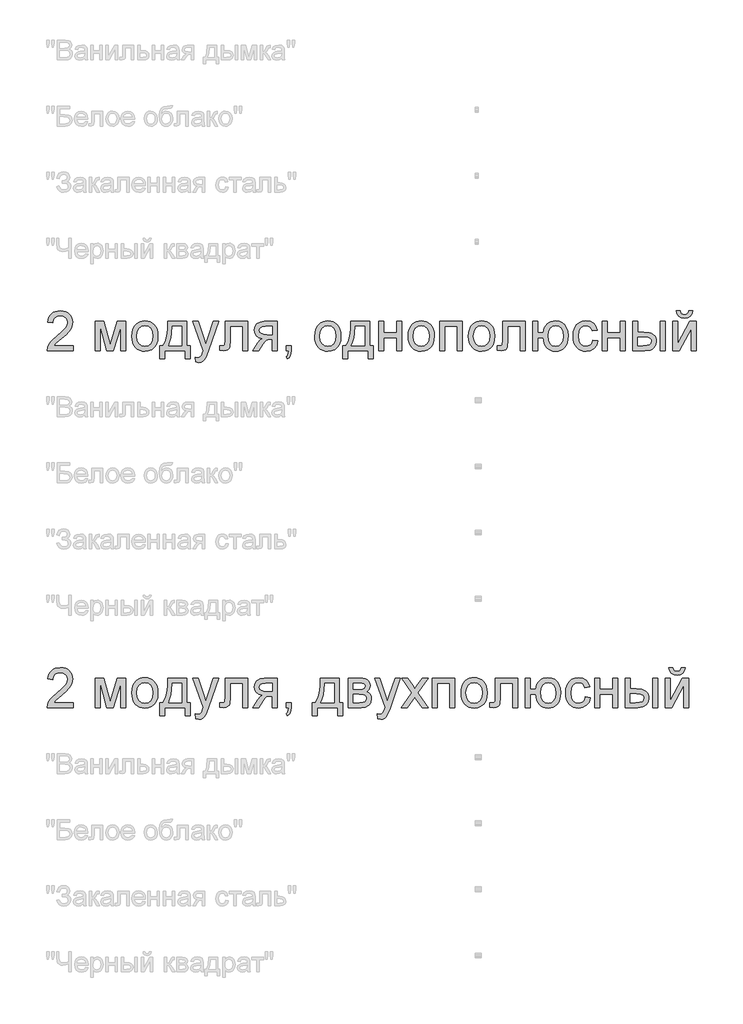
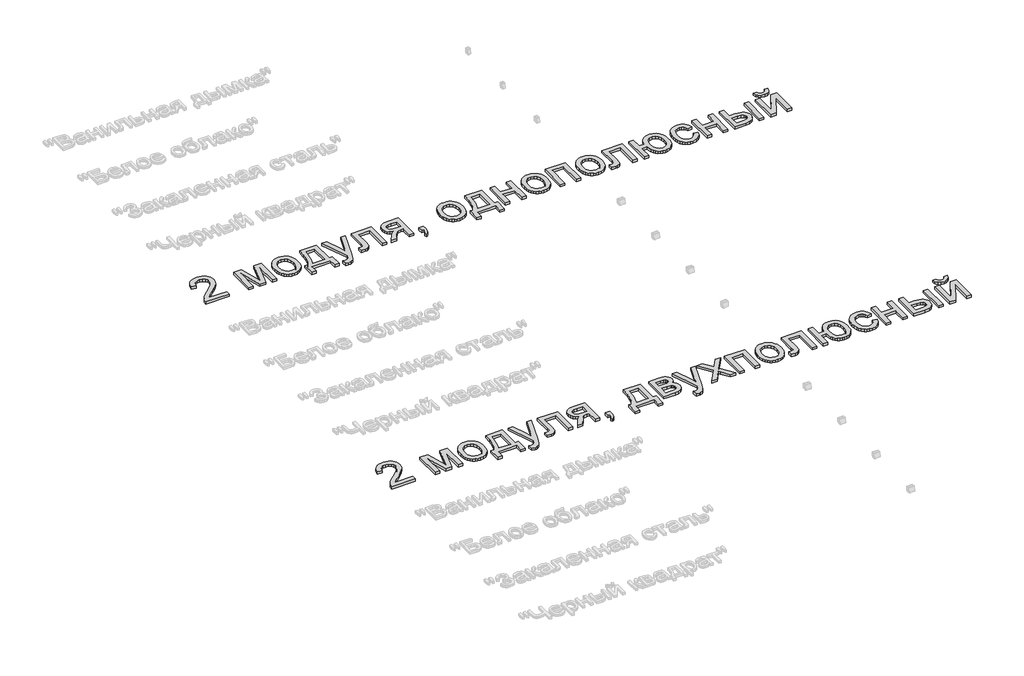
# One storey, part 19 of 168: 2 proxies.
"""IFC4 building model written with IfcOpenShell, lengths in millimetres."""

from ifc_helpers import new_model, si_unit, origin, origin_with_axes, place, context, project, spatial, polyline, outline, extrude, element, save

model = new_model("IFC4")

# Units and contexts
model_context = context("Model", 3, world=origin())
ifc_project = project(units=[si_unit("LENGTHUNIT", "METRE", prefix="MILLI")], contexts=[model_context])

# Site, building, storey
site = spatial("IfcSite", under=ifc_project)
building = spatial("IfcBuilding", under=site)
storey = spatial("IfcBuildingStorey", under=building, Name="Этаж 01", Elevation=0.0)

# Proxies
placement = place(None, origin())
element("IfcBuildingElementProxy", 1, Name="300 мм Arial 2", ObjectType="300 мм Arial 2", at=placement, inside=storey, context=model_context, shape_type="SweptSolid", body=[
    extrude(outline(polyline([(42178.0323041, -49322.925168), (42178.0323041, -49360.5962843), (41980.2589435, -49360.5962843), (41984.3056455, -49334.6238154), (41993.5946658, -49314.3259264), (42007.1879056, -49294.6350426), (42026.8511982, -49274.0244538), (42054.3503773, -49250.9674497), (42095.0013378, -49214.8598319), (42119.3919141, -49188.2067814), (42131.5872022, -49166.57532), (42135.6522983, -49145.5324699), (42131.8171285, -49126.6693206), (42120.3116191, -49110.9883506), (42102.6256922, -49100.4209403), (42080.2492698, -49096.8984702), (42056.7508074, -49100.3381668), (42038.4946633, -49110.6572568), (42026.7132424, -49127.0463997), (42022.6389493, -49148.6962551), (41984.967833, -49143.9873655), (41994.1005036, -49107.5486539), (42002.6468622, -49093.0127166), (42013.8465697, -49080.9323916), (42027.4421086, -49071.4364376), (42043.1759617, -49064.6536133), (42081.0586102, -49059.2273539), (42101.2484339, -49060.73567), (42119.2171701, -49065.2606186), (42134.9648188, -49072.8021995), (42148.4913799, -49083.3604127), (42159.3553951, -49096.1535091), (42167.1154059, -49110.3997394), (42171.7714124, -49126.0991035), (42173.3234146, -49143.2516015), (42171.6495515, -49161.2686223), (42166.6279623, -49178.9729433), (42157.7160209, -49196.9807669), (42144.3711016, -49215.9082956), (42123.0983252, -49238.5054472), (42090.4028129, -49267.5221395), (42047.0663138, -49303.758516), (42030.0701657, -49322.925168), (42178.0323041, -49322.925168)])), origin_with_axes(), (0.0, 0.0, 1.0), 20.0),
    extrude(outline(polyline([(42342.843438, -49139.278476), (42407.6642455, -49139.278476), (42457.6226204, -49316.4504449), (42511.4805445, -49139.278476), (42573.5790253, -49139.278476), (42573.5790253, -49360.5962843), (42535.907909, -49360.5962843), (42535.907909, -49182.3942458), (42481.7556793, -49360.5962843), (42432.3123392, -49360.5962843), (42380.5145543, -49173.8593835), (42380.5145543, -49360.5962843), (42342.843438, -49360.5962843), (42342.843438, -49139.278476)])), origin_with_axes(), (0.0, 0.0, 1.0), 20.0),
    extrude(outline(polyline([(42620.6679207, -49249.9373802), (42622.7050673, -49221.2747742), (42628.8165069, -49196.5760968), (42639.0022396, -49175.8413478), (42653.2622655, -49159.0705273), (42667.6188603, -49148.3513657), (42683.4653773, -49140.6948217), (42700.8018163, -49136.1008953), (42719.6281774, -49134.5695865), (42740.4112109, -49136.4342883), (42759.203083, -49142.0283939), (42776.0037939, -49151.3519032), (42790.8133435, -49164.4048163), (42802.9005663, -49180.7456746), (42811.5342969, -49199.93302), (42816.7145352, -49221.9668522), (42818.4412813, -49246.8471714), (42815.3878608, -49284.9045638), (42806.2275991, -49313.8752709), (42791.2272107, -49335.5711116), (42770.6534101, -49351.8039046), (42746.2168486, -49361.9298565), (42719.6281774, -49365.3051738), (42698.5416413, -49363.4473698), (42679.5750252, -49357.8739575), (42662.7283291, -49348.5849372), (42648.001553, -49335.5803086), (42636.0430888, -49319.0808011), (42627.5013288, -49299.3071439), (42622.3762727, -49276.2593369), (42620.6679207, -49249.9373802)]), holes=[polyline([(42658.339037, -49249.8638038), (42662.6984387, -49283.9572677), (42675.7766436, -49308.2466764), (42695.4583303, -49322.7872122), (42719.6281774, -49327.6340575), (42743.6876599, -49322.7596211), (42763.3325584, -49308.1363118), (42776.4107634, -49283.5250063), (42780.770165, -49248.6865814), (42776.3831722, -49215.5863989), (42763.2221938, -49191.6280839), (42743.5497041, -49177.0875481), (42719.6281774, -49172.2407028), (42695.4583303, -49177.069154), (42675.7766436, -49191.5545075), (42662.6984387, -49215.7887339), (42658.339037, -49249.8638038)])]), origin_with_axes(), (0.0, 0.0, 1.0), 20.0),
    extrude(outline(polyline([(42893.7835139, -49139.278476), (43035.0502001, -49139.278476), (43035.0502001, -49322.925168), (43063.3035373, -49322.925168), (43063.3035373, -49421.8118483), (43025.632421, -49421.8118483), (43025.632421, -49360.5962843), (42870.2390662, -49360.5962843), (42870.2390662, -49421.8118483), (42832.5679499, -49421.8118483), (42832.5679499, -49322.925168), (42856.1123976, -49322.925168), (42873.2281074, -49291.9954892), (42885.2118634, -49251.0778143), (42892.0636656, -49200.1721433), (42893.7835139, -49139.278476)]), holes=[polyline([(42926.7457407, -49176.9495923), (42923.6555319, -49223.0727975), (42917.9165728, -49262.7764618), (42909.5288633, -49296.0605853), (42898.4924035, -49322.925168), (42997.3790838, -49322.925168), (42997.3790838, -49176.9495923), (42926.7457407, -49176.9495923)])]), origin_with_axes(), (0.0, 0.0, 1.0), 20.0),
    extrude(outline(polyline([(43105.6835431, -49445.356296), (43100.9746536, -49409.0831313), (43120.1045174, -49412.3940692), (43137.9835823, -49408.2370027), (43148.9464658, -49396.6487198), (43159.2471616, -49368.9104174), (43162.1902176, -49359.7869439), (43082.1390955, -49139.278476), (43121.8703509, -49139.278476), (43164.3239332, -49262.1510624), (43179.1127894, -49311.3000969), (43193.9016456, -49267.8900215), (43237.5324502, -49139.278476), (43276.9694001, -49139.278476), (43199.9349103, -49365.893785), (43179.9221298, -49415.0428196), (43169.6766162, -49430.7329867), (43158.0699393, -49441.6038996), (43144.5870641, -49447.9498641), (43128.712956, -49450.0651855), (43105.6835431, -49445.356296)])), origin_with_axes(), (0.0, 0.0, 1.0), 20.0),
    extrude(outline(polyline([(43327.0013514, -49139.278476), (43496.5213748, -49139.278476), (43496.5213748, -49360.3755551), (43458.8502585, -49360.3755551), (43458.8502585, -49176.9495923), (43364.6724678, -49176.9495923), (43364.6724678, -49282.5317249), (43362.134082, -49331.2393011), (43357.3792072, -49342.2665639), (43348.1913544, -49351.8039046), (43334.2486268, -49358.3981894), (43315.2291276, -49360.5962843), (43284.6213456, -49358.6832979), (43284.6213456, -49322.925168), (43301.470341, -49322.925168), (43318.5032774, -49320.6075114), (43325.3090943, -49313.2498715), (43327.0013514, -49280.3980094), (43327.0013514, -49139.278476)])), origin_with_axes(), (0.0, 0.0, 1.0), 20.0),
    extrude(outline(polyline([(43722.5480727, -49139.278476), (43722.5480727, -49360.5962843), (43684.8769564, -49360.5962843), (43684.8769564, -49275.8362726), (43664.349141, -49275.8362726), (43636.3901094, -49280.6187385), (43625.2248908, -49291.0481931), (43610.1233349, -49312.7716249), (43580.1041641, -49360.5962843), (43536.5469359, -49360.5962843), (43574.365205, -49300.1164843), (43591.0670476, -49278.4114466), (43606.444515, -49268.7729383), (43580.6927753, -49260.8818695), (43562.5929812, -49245.8906782), (43551.8876151, -49225.9514741), (43548.3191597, -49203.2163668), (43553.1935962, -49177.4278389), (43567.8169055, -49157.0103882), (43591.6740529, -49143.711454), (43624.2500036, -49139.278476), (43722.5480727, -49139.278476)]), holes=[polyline([(43684.8769564, -49176.9495923), (43635.212887, -49176.9495923), (43609.5623149, -49179.1292931), (43595.0033849, -49185.6683956), (43588.2435533, -49195.1321599), (43585.9902761, -49206.0858463), (43589.3104111, -49220.4424412), (43599.2708161, -49230.4028462), (43617.6741129, -49236.2245788), (43646.3229233, -49238.1651563), (43684.8769564, -49238.1651563), (43684.8769564, -49176.9495923)])]), origin_with_axes(), (0.0, 0.0, 1.0), 20.0),
    extrude(outline(polyline([(43788.4725262, -49360.5962843), (43788.4725262, -49322.925168), (43826.1436425, -49322.925168), (43826.1436425, -49360.5962843), (43824.4513853, -49382.1449722), (43819.3746138, -49399.1135292), (43810.6190223, -49412.1273548), (43797.8903053, -49421.8118483), (43788.4725262, -49407.6851797), (43796.6395065, -49400.8609687), (43802.3048892, -49391.4247955), (43807.234508, -49360.5962843), (43788.4725262, -49360.5962843)])), origin_with_axes(), (0.0, 0.0, 1.0), 20.0),
    extrude(outline(polyline([(44005.081445, -49249.9373802), (44007.1185915, -49221.2747742), (44013.2300312, -49196.5760968), (44023.4157639, -49175.8413478), (44037.6757897, -49159.0705273), (44052.0323846, -49148.3513657), (44067.8789015, -49140.6948217), (44085.2153406, -49136.1008953), (44104.0417017, -49134.5695865), (44124.8247351, -49136.4342883), (44143.6166073, -49142.0283939), (44160.4173182, -49151.3519032), (44175.2268677, -49164.4048163), (44187.3140905, -49180.7456746), (44195.9478211, -49199.93302), (44201.1280594, -49221.9668522), (44202.8548056, -49246.8471714), (44199.801385, -49284.9045638), (44190.6411233, -49313.8752709), (44175.640735, -49335.5711116), (44155.0669344, -49351.8039046), (44130.6303729, -49361.9298565), (44104.0417017, -49365.3051738), (44082.9551655, -49363.4473698), (44063.9885494, -49357.8739575), (44047.1418533, -49348.5849372), (44032.4150772, -49335.5803086), (44020.4566131, -49319.0808011), (44011.914853, -49299.3071439), (44006.789797, -49276.2593369), (44005.081445, -49249.9373802)]), holes=[polyline([(44042.7525613, -49249.8638038), (44047.1119629, -49283.9572677), (44060.1901678, -49308.2466764), (44079.8718546, -49322.7872122), (44104.0417017, -49327.6340575), (44128.1011841, -49322.7596211), (44147.7460827, -49308.1363118), (44160.8242876, -49283.5250063), (44165.1836893, -49248.6865814), (44160.7966965, -49215.5863989), (44147.6357181, -49191.6280839), (44127.9632284, -49177.0875481), (44104.0417017, -49172.2407028), (44079.8718546, -49177.069154), (44060.1901678, -49191.5545075), (44047.1119629, -49215.7887339), (44042.7525613, -49249.8638038)])]), origin_with_axes(), (0.0, 0.0, 1.0), 20.0),
    extrude(outline(polyline([(44278.1970382, -49139.278476), (44419.4637243, -49139.278476), (44419.4637243, -49322.925168), (44447.7170616, -49322.925168), (44447.7170616, -49421.8118483), (44410.0459452, -49421.8118483), (44410.0459452, -49360.5962843), (44254.6525905, -49360.5962843), (44254.6525905, -49421.8118483), (44216.9814742, -49421.8118483), (44216.9814742, -49322.925168), (44240.5259219, -49322.925168), (44257.6416317, -49291.9954892), (44269.6253877, -49251.0778143), (44276.4771898, -49200.1721433), (44278.1970382, -49139.278476)]), holes=[polyline([(44311.1592649, -49176.9495923), (44308.0690562, -49223.0727975), (44302.3300971, -49262.7764618), (44293.9423876, -49296.0605853), (44282.9059277, -49322.925168), (44381.792608, -49322.925168), (44381.792608, -49176.9495923), (44311.1592649, -49176.9495923)])]), origin_with_axes(), (0.0, 0.0, 1.0), 20.0),
    extrude(outline(polyline([(44490.0970674, -49139.278476), (44527.7681837, -49139.278476), (44527.7681837, -49224.0384877), (44626.654864, -49224.0384877), (44626.654864, -49139.278476), (44664.3259803, -49139.278476), (44664.3259803, -49360.5962843), (44626.654864, -49360.5962843), (44626.654864, -49261.709604), (44527.7681837, -49261.709604), (44527.7681837, -49360.5962843), (44490.0970674, -49360.5962843), (44490.0970674, -49139.278476)])), origin_with_axes(), (0.0, 0.0, 1.0), 20.0),
    extrude(outline(polyline([(44711.4148757, -49249.9373802), (44713.4520222, -49221.2747742), (44719.5634619, -49196.5760968), (44729.7491946, -49175.8413478), (44744.0092205, -49159.0705273), (44758.3658153, -49148.3513657), (44774.2123323, -49140.6948217), (44791.5487713, -49136.1008953), (44810.3751324, -49134.5695865), (44831.1581659, -49136.4342883), (44849.950038, -49142.0283939), (44866.7507489, -49151.3519032), (44881.5602985, -49164.4048163), (44893.6475213, -49180.7456746), (44902.2812518, -49199.93302), (44907.4614902, -49221.9668522), (44909.1882363, -49246.8471714), (44906.1348157, -49284.9045638), (44896.9745541, -49313.8752709), (44881.9741657, -49335.5711116), (44861.4003651, -49351.8039046), (44836.9638036, -49361.9298565), (44810.3751324, -49365.3051738), (44789.2885963, -49363.4473698), (44770.3219802, -49357.8739575), (44753.4752841, -49348.5849372), (44738.7485079, -49335.5803086), (44726.7900438, -49319.0808011), (44718.2482838, -49299.3071439), (44713.1232277, -49276.2593369), (44711.4148757, -49249.9373802)]), holes=[polyline([(44749.085992, -49249.8638038), (44753.4453936, -49283.9572677), (44766.5235986, -49308.2466764), (44786.2052853, -49322.7872122), (44810.3751324, -49327.6340575), (44834.4346149, -49322.7596211), (44854.0795134, -49308.1363118), (44867.1577184, -49283.5250063), (44871.51712, -49248.6865814), (44867.1301272, -49215.5863989), (44853.9691488, -49191.6280839), (44834.2966591, -49177.0875481), (44810.3751324, -49172.2407028), (44786.2052853, -49177.069154), (44766.5235986, -49191.5545075), (44753.4453936, -49215.7887339), (44749.085992, -49249.8638038)])]), origin_with_axes(), (0.0, 0.0, 1.0), 20.0),
    extrude(outline(polyline([(44951.5682421, -49139.278476), (45121.0882655, -49139.278476), (45121.0882655, -49360.5962843), (45083.4171492, -49360.5962843), (45083.4171492, -49176.9495923), (44989.2393585, -49176.9495923), (44989.2393585, -49360.5962843), (44951.5682421, -49360.5962843), (44951.5682421, -49139.278476)])), origin_with_axes(), (0.0, 0.0, 1.0), 20.0),
    extrude(outline(polyline([(45168.1771609, -49249.9373802), (45170.2143075, -49221.2747742), (45176.3257471, -49196.5760968), (45186.5114798, -49175.8413478), (45200.7715057, -49159.0705273), (45215.1281005, -49148.3513657), (45230.9746175, -49140.6948217), (45248.3110565, -49136.1008953), (45267.1374176, -49134.5695865), (45287.9204511, -49136.4342883), (45306.7123232, -49142.0283939), (45323.5130341, -49151.3519032), (45338.3225837, -49164.4048163), (45350.4098065, -49180.7456746), (45359.0435371, -49199.93302), (45364.2237754, -49221.9668522), (45365.9505215, -49246.8471714), (45362.897101, -49284.9045638), (45353.7368393, -49313.8752709), (45338.7364509, -49335.5711116), (45318.1626503, -49351.8039046), (45293.7260888, -49361.9298565), (45267.1374176, -49365.3051738), (45246.0508815, -49363.4473698), (45227.0842654, -49357.8739575), (45210.2375693, -49348.5849372), (45195.5107932, -49335.5803086), (45183.552329, -49319.0808011), (45175.010569, -49299.3071439), (45169.8855129, -49276.2593369), (45168.1771609, -49249.9373802)]), holes=[polyline([(45205.8482772, -49249.8638038), (45210.2076789, -49283.9572677), (45223.2858838, -49308.2466764), (45242.9675705, -49322.7872122), (45267.1374176, -49327.6340575), (45291.1969001, -49322.7596211), (45310.8417986, -49308.1363118), (45323.9200036, -49283.5250063), (45328.2794052, -49248.6865814), (45323.8924124, -49215.5863989), (45310.731434, -49191.6280839), (45291.0589443, -49177.0875481), (45267.1374176, -49172.2407028), (45242.9675705, -49177.069154), (45223.2858838, -49191.5545075), (45210.2076789, -49215.7887339), (45205.8482772, -49249.8638038)])]), origin_with_axes(), (0.0, 0.0, 1.0), 20.0),
    extrude(outline(polyline([(45427.1660855, -49139.278476), (45596.6861089, -49139.278476), (45596.6861089, -49360.3755551), (45559.0149926, -49360.3755551), (45559.0149926, -49176.9495923), (45464.8372018, -49176.9495923), (45464.8372018, -49282.5317249), (45462.2988161, -49331.2393011), (45457.5439413, -49342.2665639), (45448.3560884, -49351.8039046), (45434.4133608, -49358.3981894), (45415.3938617, -49360.5962843), (45384.7860797, -49358.6832979), (45384.7860797, -49322.925168), (45401.635075, -49322.925168), (45418.6680114, -49320.6075114), (45425.4738283, -49313.2498715), (45427.1660855, -49280.3980094), (45427.1660855, -49139.278476)])), origin_with_axes(), (0.0, 0.0, 1.0), 20.0),
    extrude(outline(polyline([(45653.1927833, -49139.278476), (45690.8638997, -49139.278476), (45690.8638997, -49224.0384877), (45733.2439055, -49224.0384877), (45743.0203695, -49185.6316074), (45751.5437355, -49170.2909282), (45762.4905241, -49157.525423), (45775.5526342, -49147.4822445), (45790.4219646, -49140.3085456), (45825.5822863, -49134.5695865), (45855.1324076, -49137.9449038), (45877.711165, -49148.0708557), (45895.1303775, -49164.1197077), (45909.2018638, -49185.2637254), (45918.5000812, -49213.0756042), (45921.599487, -49249.1280398), (45919.9969011, -49275.9834254), (45915.1891433, -49299.3807203), (45907.1762136, -49319.3199244), (45895.958112, -49335.8010378), (45881.994691, -49348.7090973), (45865.7458031, -49357.9291398), (45847.2114483, -49363.4611653), (45826.3916267, -49365.3051738), (45806.9881507, -49363.5761285), (45789.6126242, -49358.3889923), (45774.2650472, -49349.7437654), (45760.9454197, -49337.6404478), (45749.9848355, -49322.5204978), (45741.7143884, -49304.8253738), (45733.2439055, -49261.709604), (45690.8638997, -49261.709604), (45690.8638997, -49360.5962843), (45653.1927833, -49360.5962843), (45653.1927833, -49139.278476)]), holes=[polyline([(45828.0103075, -49172.2407028), (45803.9968102, -49177.1151392), (45785.9613954, -49191.7384485), (45774.6766152, -49215.1541375), (45770.9150218, -49246.405713), (45774.7042064, -49282.8168335), (45786.07176, -49308.0259472), (45803.7852781, -49322.7320299), (45826.6123559, -49327.6340575), (45849.503813, -49323.0999119), (45867.8519275, -49309.4974752), (45879.9092599, -49285.7966776), (45883.9283707, -49250.9674497), (45880.4518859, -49216.5244979), (45870.0224313, -49191.9223895), (45852.5664306, -49177.1611245), (45828.0103075, -49172.2407028)])]), origin_with_axes(), (0.0, 0.0, 1.0), 20.0),
    extrude(outline(polyline([(46109.9550686, -49280.5451621), (46147.6261849, -49285.2540517), (46137.1231539, -49318.7589044), (46117.3862849, -49344.0783827), (46090.2733818, -49359.9984761), (46057.6422488, -49365.3051738), (46036.514326, -49363.4542676), (46017.5707025, -49357.9015487), (46000.8113784, -49348.6470172), (45986.2363536, -49335.6906732), (45974.4388379, -49319.2762385), (45966.0120409, -49299.6474347), (45960.9559627, -49276.8042621), (45959.2706033, -49250.7467205), (45962.1492799, -49217.2234737), (45970.7853098, -49188.1699932), (45985.3166486, -49164.7083189), (46005.8812521, -49147.9604911), (46030.4833606, -49137.9173126), (46057.1272141, -49134.5695865), (46088.9582037, -49139.1681114), (46114.4064407, -49152.9636862), (46132.6625847, -49175.2205469), (46142.9172953, -49205.2029295), (46105.246179, -49209.9118191), (46098.412771, -49193.4766909), (46087.7717843, -49181.69527), (46073.9118301, -49174.6043446), (46057.4215197, -49172.2407028), (46033.0769286, -49176.89441), (46013.7539268, -49190.8555317), (46001.1447714, -49214.878226), (45996.9417196, -49249.716651), (46001.0528009, -49285.0241254), (46013.3860448, -49309.1295932), (46032.3595587, -49323.0079414), (46056.3914501, -49327.6340575), (46075.8983929, -49324.7461839), (46091.8920626, -49316.0825629), (46103.5263307, -49301.4224654), (46109.9550686, -49280.5451621)])), origin_with_axes(), (0.0, 0.0, 1.0), 20.0),
    extrude(outline(polyline([(46180.5884116, -49139.278476), (46218.2595279, -49139.278476), (46218.2595279, -49224.0384877), (46317.1462082, -49224.0384877), (46317.1462082, -49139.278476), (46354.8173246, -49139.278476), (46354.8173246, -49360.5962843), (46317.1462082, -49360.5962843), (46317.1462082, -49261.709604), (46218.2595279, -49261.709604), (46218.2595279, -49360.5962843), (46180.5884116, -49360.5962843), (46180.5884116, -49139.278476)])), origin_with_axes(), (0.0, 0.0, 1.0), 20.0),
    extrude(outline(polyline([(46411.323999, -49139.278476), (46448.9951153, -49139.278476), (46448.9951153, -49219.3295982), (46495.5689759, -49219.3295982), (46535.8244632, -49224.0476847), (46552.0411614, -49229.945293), (46565.650496, -49238.2019445), (46576.4179421, -49248.5325308), (46584.1089751, -49260.6519433), (46588.7235949, -49274.5601819), (46590.2618015, -49290.2572468), (46585.1022565, -49317.2138), (46569.6236215, -49339.9581044), (46557.7617265, -49348.9873081), (46542.8142211, -49355.4367393), (46503.6623798, -49360.5962843), (46411.323999, -49360.5962843), (46411.323999, -49139.278476)]), holes=[polyline([(46448.9951153, -49322.925168), (46487.6963012, -49322.925168), (46517.6970779, -49320.9478023), (46537.6546762, -49315.0157051), (46548.8566829, -49304.8897532), (46552.5906852, -49290.3308232), (46549.8223731, -49278.0251705), (46541.5174371, -49267.1542575), (46523.7579338, -49259.5391002), (46492.6259199, -49257.0007145), (46448.9951153, -49257.0007145), (46448.9951153, -49322.925168)])]), origin_with_axes(), (0.0, 0.0, 1.0), 20.0),
    extrude(outline(polyline([(46618.5151387, -49139.278476), (46656.186255, -49139.278476), (46656.186255, -49360.5962843), (46618.5151387, -49360.5962843), (46618.5151387, -49139.278476)])), origin_with_axes(), (0.0, 0.0, 1.0), 20.0),
    extrude(outline(polyline([(46712.6929295, -49139.278476), (46750.3640458, -49139.278476), (46750.3640458, -49308.0627354), (46842.9231558, -49139.278476), (46891.6307319, -49139.278476), (46891.6307319, -49360.5962843), (46853.9596156, -49360.5962843), (46853.9596156, -49192.8420945), (46761.9891168, -49360.5962843), (46712.6929295, -49360.5962843), (46712.6929295, -49139.278476)])), origin_with_axes(), (0.0, 0.0, 1.0), 20.0),
    extrude(outline(polyline([(46835.1240575, -49059.2273539), (46863.3773947, -49059.2273539), (46857.2981447, -49083.3512157), (46845.0936595, -49101.1291131), (46827.3157621, -49112.0827995), (46804.5162755, -49115.7340283), (46779.7762113, -49112.1103907), (46760.5911652, -49101.2394777), (46747.4761721, -49083.4891714), (46740.9462667, -49059.2273539), (46769.1996039, -49059.2273539), (46773.1727295, -49071.6341741), (46779.7946054, -49080.454145), (46789.1020199, -49085.7240546), (46801.1317611, -49087.4806911), (46814.7066067, -49085.7792369), (46824.529056, -49080.6748742), (46831.1509319, -49071.9100856), (46835.1240575, -49059.2273539)])), origin_with_axes(), (0.0, 0.0, 1.0), 20.0),
])
element("IfcBuildingElementProxy", 2, Name="300 мм Arial 2", ObjectType="300 мм Arial 2", at=placement, inside=storey, context=model_context, shape_type="SweptSolid", body=[
    extrude(outline(polyline([(42178.0323041, -52022.925168), (42178.0323041, -52060.5962843), (41980.2589435, -52060.5962843), (41984.3056455, -52034.6238154), (41993.5946658, -52014.3259264), (42007.1879056, -51994.6350426), (42026.8511982, -51974.0244538), (42054.3503773, -51950.9674497), (42095.0013378, -51914.8598319), (42119.3919141, -51888.2067814), (42131.5872022, -51866.57532), (42135.6522983, -51845.5324699), (42131.8171285, -51826.6693206), (42120.3116191, -51810.9883506), (42102.6256922, -51800.4209403), (42080.2492698, -51796.8984702), (42056.7508074, -51800.3381668), (42038.4946633, -51810.6572568), (42026.7132424, -51827.0463997), (42022.6389493, -51848.6962551), (41984.967833, -51843.9873655), (41994.1005036, -51807.5486539), (42002.6468622, -51793.0127166), (42013.8465697, -51780.9323916), (42027.4421086, -51771.4364376), (42043.1759617, -51764.6536133), (42081.0586102, -51759.2273539), (42101.2484339, -51760.73567), (42119.2171701, -51765.2606186), (42134.9648188, -51772.8021995), (42148.4913799, -51783.3604127), (42159.3553951, -51796.1535091), (42167.1154059, -51810.3997394), (42171.7714124, -51826.0991035), (42173.3234146, -51843.2516015), (42171.6495515, -51861.2686223), (42166.6279623, -51878.9729433), (42157.7160209, -51896.9807669), (42144.3711016, -51915.9082956), (42123.0983252, -51938.5054472), (42090.4028129, -51967.5221395), (42047.0663138, -52003.758516), (42030.0701657, -52022.925168), (42178.0323041, -52022.925168)])), origin_with_axes(), (0.0, 0.0, 1.0), 20.0),
    extrude(outline(polyline([(42342.843438, -51839.278476), (42407.6642455, -51839.278476), (42457.6226204, -52016.4504449), (42511.4805445, -51839.278476), (42573.5790253, -51839.278476), (42573.5790253, -52060.5962843), (42535.907909, -52060.5962843), (42535.907909, -51882.3942458), (42481.7556793, -52060.5962843), (42432.3123392, -52060.5962843), (42380.5145543, -51873.8593835), (42380.5145543, -52060.5962843), (42342.843438, -52060.5962843), (42342.843438, -51839.278476)])), origin_with_axes(), (0.0, 0.0, 1.0), 20.0),
    extrude(outline(polyline([(42620.6679207, -51949.9373802), (42622.7050673, -51921.2747742), (42628.8165069, -51896.5760968), (42639.0022396, -51875.8413478), (42653.2622655, -51859.0705273), (42667.6188603, -51848.3513657), (42683.4653773, -51840.6948217), (42700.8018163, -51836.1008953), (42719.6281774, -51834.5695865), (42740.4112109, -51836.4342883), (42759.203083, -51842.0283939), (42776.0037939, -51851.3519032), (42790.8133435, -51864.4048163), (42802.9005663, -51880.7456746), (42811.5342969, -51899.93302), (42816.7145352, -51921.9668522), (42818.4412813, -51946.8471714), (42815.3878608, -51984.9045638), (42806.2275991, -52013.8752709), (42791.2272107, -52035.5711116), (42770.6534101, -52051.8039046), (42746.2168486, -52061.9298565), (42719.6281774, -52065.3051738), (42698.5416413, -52063.4473698), (42679.5750252, -52057.8739575), (42662.7283291, -52048.5849372), (42648.001553, -52035.5803086), (42636.0430888, -52019.0808011), (42627.5013288, -51999.3071439), (42622.3762727, -51976.2593369), (42620.6679207, -51949.9373802)]), holes=[polyline([(42658.339037, -51949.8638038), (42662.6984387, -51983.9572677), (42675.7766436, -52008.2466764), (42695.4583303, -52022.7872122), (42719.6281774, -52027.6340575), (42743.6876599, -52022.7596211), (42763.3325584, -52008.1363118), (42776.4107634, -51983.5250063), (42780.770165, -51948.6865814), (42776.3831722, -51915.5863989), (42763.2221938, -51891.6280839), (42743.5497041, -51877.0875481), (42719.6281774, -51872.2407028), (42695.4583303, -51877.069154), (42675.7766436, -51891.5545075), (42662.6984387, -51915.7887339), (42658.339037, -51949.8638038)])]), origin_with_axes(), (0.0, 0.0, 1.0), 20.0),
    extrude(outline(polyline([(42893.7835139, -51839.278476), (43035.0502001, -51839.278476), (43035.0502001, -52022.925168), (43063.3035373, -52022.925168), (43063.3035373, -52121.8118483), (43025.632421, -52121.8118483), (43025.632421, -52060.5962843), (42870.2390662, -52060.5962843), (42870.2390662, -52121.8118483), (42832.5679499, -52121.8118483), (42832.5679499, -52022.925168), (42856.1123976, -52022.925168), (42873.2281074, -51991.9954892), (42885.2118634, -51951.0778143), (42892.0636656, -51900.1721433), (42893.7835139, -51839.278476)]), holes=[polyline([(42926.7457407, -51876.9495923), (42923.6555319, -51923.0727975), (42917.9165728, -51962.7764618), (42909.5288633, -51996.0605853), (42898.4924035, -52022.925168), (42997.3790838, -52022.925168), (42997.3790838, -51876.9495923), (42926.7457407, -51876.9495923)])]), origin_with_axes(), (0.0, 0.0, 1.0), 20.0),
    extrude(outline(polyline([(43105.6835431, -52145.356296), (43100.9746536, -52109.0831313), (43120.1045174, -52112.3940692), (43137.9835823, -52108.2370027), (43148.9464658, -52096.6487198), (43159.2471616, -52068.9104174), (43162.1902176, -52059.7869439), (43082.1390955, -51839.278476), (43121.8703509, -51839.278476), (43164.3239332, -51962.1510624), (43179.1127894, -52011.3000969), (43193.9016456, -51967.8900215), (43237.5324502, -51839.278476), (43276.9694001, -51839.278476), (43199.9349103, -52065.893785), (43179.9221298, -52115.0428196), (43169.6766162, -52130.7329867), (43158.0699393, -52141.6038996), (43144.5870641, -52147.9498641), (43128.712956, -52150.0651855), (43105.6835431, -52145.356296)])), origin_with_axes(), (0.0, 0.0, 1.0), 20.0),
    extrude(outline(polyline([(43327.0013514, -51839.278476), (43496.5213748, -51839.278476), (43496.5213748, -52060.3755551), (43458.8502585, -52060.3755551), (43458.8502585, -51876.9495923), (43364.6724678, -51876.9495923), (43364.6724678, -51982.5317249), (43362.134082, -52031.2393011), (43357.3792072, -52042.2665639), (43348.1913544, -52051.8039046), (43334.2486268, -52058.3981894), (43315.2291276, -52060.5962843), (43284.6213456, -52058.6832979), (43284.6213456, -52022.925168), (43301.470341, -52022.925168), (43318.5032774, -52020.6075114), (43325.3090943, -52013.2498715), (43327.0013514, -51980.3980094), (43327.0013514, -51839.278476)])), origin_with_axes(), (0.0, 0.0, 1.0), 20.0),
    extrude(outline(polyline([(43722.5480727, -51839.278476), (43722.5480727, -52060.5962843), (43684.8769564, -52060.5962843), (43684.8769564, -51975.8362726), (43664.349141, -51975.8362726), (43636.3901094, -51980.6187385), (43625.2248908, -51991.0481931), (43610.1233349, -52012.7716249), (43580.1041641, -52060.5962843), (43536.5469359, -52060.5962843), (43574.365205, -52000.1164843), (43591.0670476, -51978.4114466), (43606.444515, -51968.7729383), (43580.6927753, -51960.8818695), (43562.5929812, -51945.8906782), (43551.8876151, -51925.9514741), (43548.3191597, -51903.2163668), (43553.1935962, -51877.4278389), (43567.8169055, -51857.0103882), (43591.6740529, -51843.711454), (43624.2500036, -51839.278476), (43722.5480727, -51839.278476)]), holes=[polyline([(43684.8769564, -51876.9495923), (43635.212887, -51876.9495923), (43609.5623149, -51879.1292931), (43595.0033849, -51885.6683956), (43588.2435533, -51895.1321599), (43585.9902761, -51906.0858463), (43589.3104111, -51920.4424412), (43599.2708161, -51930.4028462), (43617.6741129, -51936.2245788), (43646.3229233, -51938.1651563), (43684.8769564, -51938.1651563), (43684.8769564, -51876.9495923)])]), origin_with_axes(), (0.0, 0.0, 1.0), 20.0),
    extrude(outline(polyline([(43788.4725262, -52060.5962843), (43788.4725262, -52022.925168), (43826.1436425, -52022.925168), (43826.1436425, -52060.5962843), (43824.4513853, -52082.1449722), (43819.3746138, -52099.1135292), (43810.6190223, -52112.1273548), (43797.8903053, -52121.8118483), (43788.4725262, -52107.6851797), (43796.6395065, -52100.8609687), (43802.3048892, -52091.4247955), (43807.234508, -52060.5962843), (43788.4725262, -52060.5962843)])), origin_with_axes(), (0.0, 0.0, 1.0), 20.0),
    extrude(outline(polyline([(44047.4614508, -51839.278476), (44188.7281369, -51839.278476), (44188.7281369, -52022.925168), (44216.9814742, -52022.925168), (44216.9814742, -52121.8118483), (44179.3103579, -52121.8118483), (44179.3103579, -52060.5962843), (44023.9170031, -52060.5962843), (44023.9170031, -52121.8118483), (43986.2458868, -52121.8118483), (43986.2458868, -52022.925168), (44009.7903345, -52022.925168), (44026.9060443, -51991.9954892), (44038.8898003, -51951.0778143), (44045.7416025, -51900.1721433), (44047.4614508, -51839.278476)]), holes=[polyline([(44080.4236776, -51876.9495923), (44077.3334688, -51923.0727975), (44071.5945097, -51962.7764618), (44063.2068002, -51996.0605853), (44052.1703403, -52022.925168), (44151.0570206, -52022.925168), (44151.0570206, -51876.9495923), (44080.4236776, -51876.9495923)])]), origin_with_axes(), (0.0, 0.0, 1.0), 20.0),
    extrude(outline(polyline([(44259.36148, -51839.278476), (44342.3556581, -51839.278476), (44369.0362998, -51840.5384718), (44387.8626609, -51844.3184593), (44401.7134181, -51851.45537), (44413.4672478, -51862.7861355), (44421.4962723, -51877.5474006), (44424.1726139, -51894.9758101), (44422.5539331, -51909.0197052), (44417.6978907, -51921.1322199), (44409.5860928, -51931.3685364), (44398.200145, -51939.7838371), (44412.1428726, -51947.6105265), (44423.5104263, -51960.2012878), (44431.0704013, -51976.5628396), (44433.5903929, -51995.7019004), (44427.2076403, -52024.4150901), (44412.032508, -52044.6302057), (44388.0098137, -52056.6047647), (44355.0843752, -52060.5962843), (44259.36148, -52060.5962843), (44259.36148, -51839.278476)]), holes=[polyline([(44297.0325963, -51924.0384877), (44334.2622542, -51924.0384877), (44364.9804008, -51922.1255013), (44379.9164098, -51914.4735558), (44384.8552256, -51908.1459855), (44386.5014976, -51900.6411928), (44383.6136239, -51889.4023978), (44374.9500029, -51882.1735166), (44359.296624, -51878.2555734), (44335.4394766, -51876.9495923), (44297.0325963, -51876.9495923), (44297.0325963, -51924.0384877)]), polyline([(44297.0325963, -52022.925168), (44343.2385749, -52022.925168), (44368.4200975, -52021.2237138), (44384.2206292, -52016.1193511), (44392.7003092, -52006.8395278), (44395.9192766, -51992.6116916), (44394.3097929, -51983.1847155), (44389.4813417, -51974.4751092), (44382.0685195, -51967.6600953), (44372.7059227, -51963.916896), (44339.559755, -51961.709604), (44297.0325963, -51961.709604), (44297.0325963, -52022.925168)])]), origin_with_axes(), (0.0, 0.0, 1.0), 20.0),
    extrude(outline(polyline([(44480.6792883, -52145.356296), (44475.9703988, -52109.0831313), (44495.1002625, -52112.3940692), (44512.9793275, -52108.2370027), (44523.942211, -52096.6487198), (44534.2429068, -52068.9104174), (44537.1859628, -52059.7869439), (44457.1348406, -51839.278476), (44496.8660961, -51839.278476), (44539.3196784, -51962.1510624), (44554.1085346, -52011.3000969), (44568.8973908, -51967.8900215), (44612.5281954, -51839.278476), (44651.9651453, -51839.278476), (44574.9306555, -52065.893785), (44554.9178749, -52115.0428196), (44544.6723614, -52130.7329867), (44533.0656844, -52141.6038996), (44519.5828093, -52147.9498641), (44503.7087012, -52150.0651855), (44480.6792883, -52145.356296)])), origin_with_axes(), (0.0, 0.0, 1.0), 20.0),
    extrude(outline(polyline([(44659.6170908, -52060.5962843), (44740.1096713, -51949.348769), (44664.3259803, -51839.278476), (44709.6490421, -51839.278476), (44746.2165124, -51892.2534833), (44763.286237, -51917.269459), (44778.0750932, -51896.81522), (44819.7193351, -51839.278476), (44865.0423969, -51839.278476), (44785.4327331, -51949.348769), (44862.0993409, -52060.5962843), (44816.7762791, -52060.5962843), (44770.6438769, -51993.7153376), (44762.182591, -51981.5016553), (44704.9401526, -52060.5962843), (44659.6170908, -52060.5962843)])), origin_with_axes(), (0.0, 0.0, 1.0), 20.0),
    extrude(outline(polyline([(44895.0615677, -51839.278476), (45064.5815911, -51839.278476), (45064.5815911, -52060.5962843), (45026.9104748, -52060.5962843), (45026.9104748, -51876.9495923), (44932.732684, -51876.9495923), (44932.732684, -52060.5962843), (44895.0615677, -52060.5962843), (44895.0615677, -51839.278476)])), origin_with_axes(), (0.0, 0.0, 1.0), 20.0),
    extrude(outline(polyline([(45111.6704864, -51949.9373802), (45113.707633, -51921.2747742), (45119.8190726, -51896.5760968), (45130.0048054, -51875.8413478), (45144.2648312, -51859.0705273), (45158.6214261, -51848.3513657), (45174.467943, -51840.6948217), (45191.804382, -51836.1008953), (45210.6307432, -51834.5695865), (45231.4137766, -51836.4342883), (45250.2056488, -51842.0283939), (45267.0063597, -51851.3519032), (45281.8159092, -51864.4048163), (45293.903132, -51880.7456746), (45302.5368626, -51899.93302), (45307.7171009, -51921.9668522), (45309.4438471, -51946.8471714), (45306.3904265, -51984.9045638), (45297.2301648, -52013.8752709), (45282.2297765, -52035.5711116), (45261.6559759, -52051.8039046), (45237.2194144, -52061.9298565), (45210.6307432, -52065.3051738), (45189.544207, -52063.4473698), (45170.5775909, -52057.8739575), (45153.7308948, -52048.5849372), (45139.0041187, -52035.5803086), (45127.0456546, -52019.0808011), (45118.5038945, -51999.3071439), (45113.3788385, -51976.2593369), (45111.6704864, -51949.9373802)]), holes=[polyline([(45149.3416028, -51949.8638038), (45153.7010044, -51983.9572677), (45166.7792093, -52008.2466764), (45186.4608961, -52022.7872122), (45210.6307432, -52027.6340575), (45234.6902256, -52022.7596211), (45254.3351242, -52008.1363118), (45267.4133291, -51983.5250063), (45271.7727308, -51948.6865814), (45267.385738, -51915.5863989), (45254.2247596, -51891.6280839), (45234.5522699, -51877.0875481), (45210.6307432, -51872.2407028), (45186.4608961, -51877.069154), (45166.7792093, -51891.5545075), (45153.7010044, -51915.7887339), (45149.3416028, -51949.8638038)])]), origin_with_axes(), (0.0, 0.0, 1.0), 20.0),
    extrude(outline(polyline([(45370.6594111, -51839.278476), (45540.1794344, -51839.278476), (45540.1794344, -52060.3755551), (45502.5083181, -52060.3755551), (45502.5083181, -51876.9495923), (45408.3305274, -51876.9495923), (45408.3305274, -51982.5317249), (45405.7921416, -52031.2393011), (45401.0372668, -52042.2665639), (45391.849414, -52051.8039046), (45377.9066864, -52058.3981894), (45358.8871872, -52060.5962843), (45328.2794052, -52058.6832979), (45328.2794052, -52022.925168), (45345.1284006, -52022.925168), (45362.161337, -52020.6075114), (45368.9671539, -52013.2498715), (45370.6594111, -51980.3980094), (45370.6594111, -51839.278476)])), origin_with_axes(), (0.0, 0.0, 1.0), 20.0),
    extrude(outline(polyline([(45596.6861089, -51839.278476), (45634.3572252, -51839.278476), (45634.3572252, -51924.0384877), (45676.737231, -51924.0384877), (45686.5136951, -51885.6316074), (45695.037061, -51870.2909282), (45705.9838497, -51857.525423), (45719.0459597, -51847.4822445), (45733.9152901, -51840.3085456), (45769.0756118, -51834.5695865), (45798.6257331, -51837.9449038), (45821.2044905, -51848.0708557), (45838.623703, -51864.1197077), (45852.6951893, -51885.2637254), (45861.9934068, -51913.0756042), (45865.0928126, -51949.1280398), (45863.4902266, -51975.9834254), (45858.6824688, -51999.3807203), (45850.6695391, -52019.3199244), (45839.4514375, -52035.8010378), (45825.4880165, -52048.7090973), (45809.2391287, -52057.9291398), (45790.7047739, -52063.4611653), (45769.8849522, -52065.3051738), (45750.4814762, -52063.5761285), (45733.1059498, -52058.3889923), (45717.7583728, -52049.7437654), (45704.4387453, -52037.6404478), (45693.4781611, -52022.5204978), (45685.207714, -52004.8253738), (45676.737231, -51961.709604), (45634.3572252, -51961.709604), (45634.3572252, -52060.5962843), (45596.6861089, -52060.5962843), (45596.6861089, -51839.278476)]), holes=[polyline([(45771.503633, -51872.2407028), (45747.4901358, -51877.1151392), (45729.4547209, -51891.7384485), (45718.1699407, -51915.1541375), (45714.4083473, -51946.405713), (45718.1975319, -51982.8168335), (45729.5650855, -52008.0259472), (45747.2786036, -52022.7320299), (45770.1056814, -52027.6340575), (45792.9971386, -52023.0999119), (45811.3452531, -52009.4974752), (45823.4025855, -51985.7966776), (45827.4216963, -51950.9674497), (45823.9452114, -51916.5244979), (45813.5157568, -51891.9223895), (45796.0597562, -51877.1611245), (45771.503633, -51872.2407028)])]), origin_with_axes(), (0.0, 0.0, 1.0), 20.0),
    extrude(outline(polyline([(46053.4483941, -51980.5451621), (46091.1195104, -51985.2540517), (46080.6164794, -52018.7589044), (46060.8796104, -52044.0783827), (46033.7667074, -52059.9984761), (46001.1355744, -52065.3051738), (45980.0076516, -52063.4542676), (45961.0640281, -52057.9015487), (45944.3047039, -52048.6470172), (45929.7296791, -52035.6906732), (45917.9321634, -52019.2762385), (45909.5053664, -51999.6474347), (45904.4492883, -51976.8042621), (45902.7639289, -51950.7467205), (45905.6426055, -51917.2234737), (45914.2786353, -51888.1699932), (45928.8099741, -51864.7083189), (45949.3745777, -51847.9604911), (45973.9766861, -51837.9173126), (46000.6205396, -51834.5695865), (46032.4515292, -51839.1681114), (46057.8997662, -51852.9636862), (46076.1559103, -51875.2205469), (46086.4106209, -51905.2029295), (46048.7395046, -51909.9118191), (46041.9060965, -51893.4766909), (46031.2651098, -51881.69527), (46017.4051556, -51874.6043446), (46000.9148452, -51872.2407028), (45976.5702542, -51876.89441), (45957.2472524, -51890.8555317), (45944.638097, -51914.878226), (45940.4350452, -51949.716651), (45944.5461265, -51985.0241254), (45956.8793704, -52009.1295932), (45975.8528843, -52023.0079414), (45999.8847756, -52027.6340575), (46019.3917184, -52024.7461839), (46035.3853881, -52016.0825629), (46047.0196562, -52001.4224654), (46053.4483941, -51980.5451621)])), origin_with_axes(), (0.0, 0.0, 1.0), 20.0),
    extrude(outline(polyline([(46124.0817372, -51839.278476), (46161.7528535, -51839.278476), (46161.7528535, -51924.0384877), (46260.6395338, -51924.0384877), (46260.6395338, -51839.278476), (46298.3106501, -51839.278476), (46298.3106501, -52060.5962843), (46260.6395338, -52060.5962843), (46260.6395338, -51961.709604), (46161.7528535, -51961.709604), (46161.7528535, -52060.5962843), (46124.0817372, -52060.5962843), (46124.0817372, -51839.278476)])), origin_with_axes(), (0.0, 0.0, 1.0), 20.0),
    extrude(outline(polyline([(46562.0084642, -51839.278476), (46599.6795805, -51839.278476), (46599.6795805, -52060.5962843), (46562.0084642, -52060.5962843), (46562.0084642, -51839.278476)])), origin_with_axes(), (0.0, 0.0, 1.0), 20.0),
    extrude(outline(polyline([(46354.8173246, -51839.278476), (46392.4884409, -51839.278476), (46392.4884409, -51919.3295982), (46439.0623014, -51919.3295982), (46479.3177888, -51924.0476847), (46495.534487, -51929.945293), (46509.1438215, -51938.2019445), (46519.9112677, -51948.5325308), (46527.6023006, -51960.6519433), (46532.2169204, -51974.5601819), (46533.755127, -51990.2572468), (46528.595582, -52017.2138), (46513.1169471, -52039.9581044), (46501.255052, -52048.9873081), (46486.3075467, -52055.4367393), (46447.1557053, -52060.5962843), (46354.8173246, -52060.5962843), (46354.8173246, -51839.278476)]), holes=[polyline([(46392.4884409, -52022.925168), (46431.1896267, -52022.925168), (46461.1904035, -52020.9478023), (46481.1480017, -52015.0157051), (46492.3500084, -52004.8897532), (46496.0840107, -51990.3308232), (46493.3156987, -51978.0251705), (46485.0107626, -51967.1542575), (46467.2512593, -51959.5391002), (46436.1192455, -51957.0007145), (46392.4884409, -51957.0007145), (46392.4884409, -52022.925168)])]), origin_with_axes(), (0.0, 0.0, 1.0), 20.0),
    extrude(outline(polyline([(46656.186255, -51839.278476), (46693.8573713, -51839.278476), (46693.8573713, -52008.0627354), (46786.4164813, -51839.278476), (46835.1240575, -51839.278476), (46835.1240575, -52060.5962843), (46797.4529411, -52060.5962843), (46797.4529411, -51892.8420945), (46705.4824424, -52060.5962843), (46656.186255, -52060.5962843), (46656.186255, -51839.278476)])), origin_with_axes(), (0.0, 0.0, 1.0), 20.0),
    extrude(outline(polyline([(46778.617383, -51759.2273539), (46806.8707202, -51759.2273539), (46800.7914703, -51783.3512157), (46788.5869851, -51801.1291131), (46770.8090876, -51812.0827995), (46748.009601, -51815.7340283), (46723.2695368, -51812.1103907), (46704.0844908, -51801.2394777), (46690.9694976, -51783.4891714), (46684.4395922, -51759.2273539), (46712.6929295, -51759.2273539), (46716.666055, -51771.6341741), (46723.2879309, -51780.454145), (46732.5953454, -51785.7240546), (46744.6250866, -51787.4806911), (46758.1999323, -51785.7792369), (46768.0223815, -51780.6748742), (46774.6442574, -51771.9100856), (46778.617383, -51759.2273539)])), origin_with_axes(), (0.0, 0.0, 1.0), 20.0),
])

save(model, "model.ifc")
